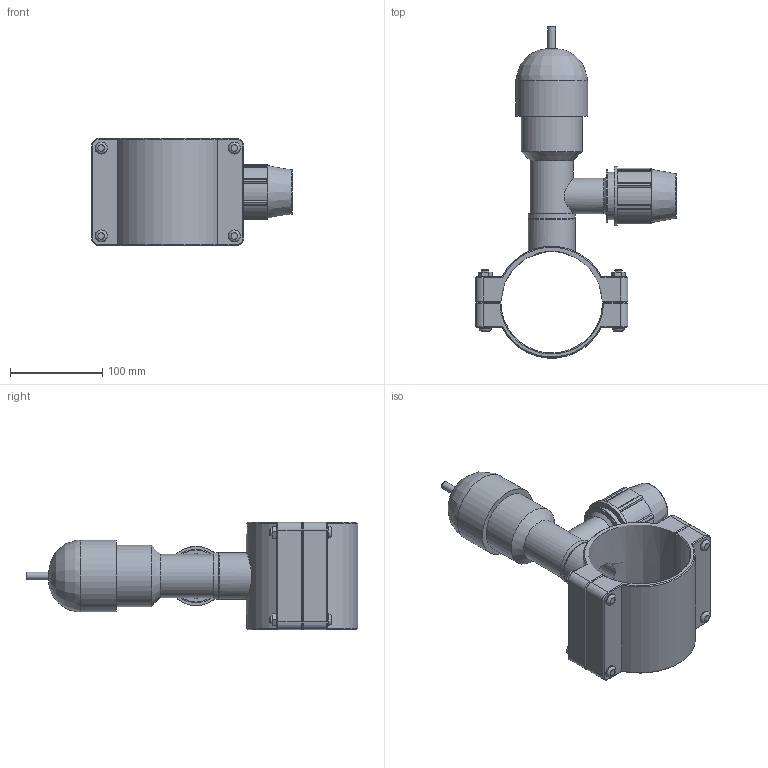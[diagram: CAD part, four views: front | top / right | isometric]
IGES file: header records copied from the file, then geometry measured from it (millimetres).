
Global section: file name: 186800110032.ipt; native system: Autodesk Inventor 2015; preprocessor: unknown; author: KIM; date: 20170618.094024; units: millimetre
Bounding box: 217.5 x 359.28 x 116 mm (x, y, z)
Volume: 1181134.7 mm3; surface area: 216190.5 mm2
Topology: 1 solids, 1 shells, 224 faces, 557 edges, 361 vertices
Faces by surface type: plane 133, cylinder 43, cone 29, revolution 19
Full cylindrical faces by diameter (mm): 8 x4, 8.19 x1, 13 x8, 38.4 x1, 38.952 x1, 46.742 x1, 50.638 x2, 51.2 x1, 57.6 x1, 64 x1, 66.218 x1, 77.904 x1
